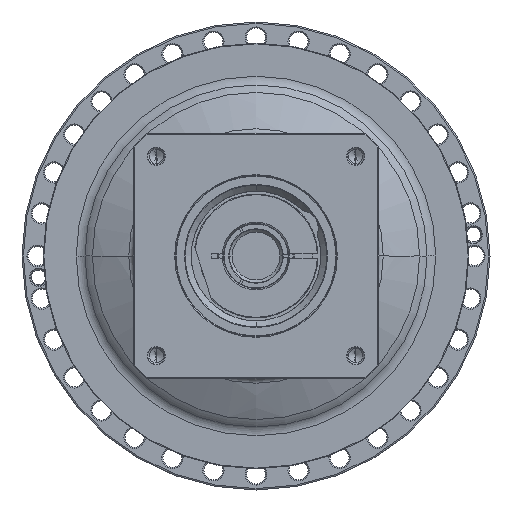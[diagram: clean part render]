
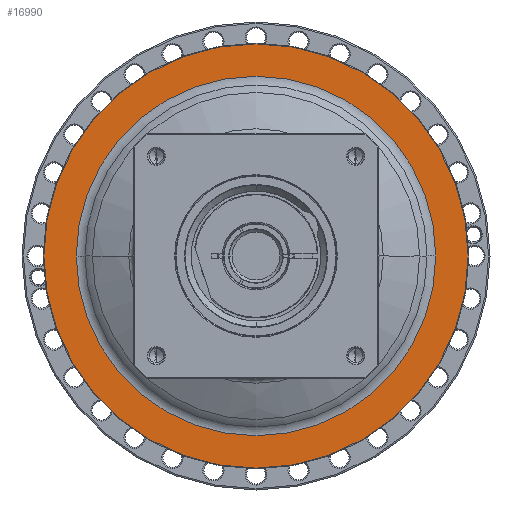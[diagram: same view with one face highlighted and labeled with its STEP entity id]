
A CAD part, left-side view. The second image highlights one B-rep face of the part: STEP entity #16990.
In plain terms, the highlighted planar face has unit normal (-1, 0, 0) as drawn and (1, 0, 0) by its records, which use the part's own axes.
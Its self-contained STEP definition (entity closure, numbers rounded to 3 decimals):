
#16397=CARTESIAN_POINT('',(-25.,0.,0.));
#16398=DIRECTION('',(-1.,0.,0.));
#16399=DIRECTION('',(0.,-1.,0.));
#16400=AXIS2_PLACEMENT_3D('',#16397,#16398,#16399);
#16402=CARTESIAN_POINT('',(-25.,0.,0.));
#16403=DIRECTION('',(-1.,0.,0.));
#16404=DIRECTION('',(0.,1.,0.));
#16405=AXIS2_PLACEMENT_3D('',#16402,#16403,#16404);
#16412=CARTESIAN_POINT('',(-25.,0.,0.));
#16413=DIRECTION('',(1.,0.,0.));
#16414=DIRECTION('',(0.,1.,0.));
#16415=AXIS2_PLACEMENT_3D('',#16412,#16413,#16414);
#16467=CARTESIAN_POINT('',(-25.,0.,0.));
#16468=DIRECTION('',(-1.,0.,0.));
#16469=DIRECTION('',(0.,1.,0.));
#16470=AXIS2_PLACEMENT_3D('',#16467,#16468,#16469);
#16541=CARTESIAN_POINT('',(-25.,-150.5,0.));
#16542=CARTESIAN_POINT('',(-25.,150.5,0.));
#16543=VERTEX_POINT('',#16541);
#16544=VERTEX_POINT('',#16542);
#16569=CARTESIAN_POINT('',(-25.,127.5,0.));
#16570=CARTESIAN_POINT('',(-25.,-127.5,0.));
#16571=VERTEX_POINT('',#16569);
#16572=VERTEX_POINT('',#16570);
#16975=CARTESIAN_POINT('',(-25.,0.,0.));
#16976=DIRECTION('',(1.,0.,0.));
#16977=DIRECTION('',(0.,-1.,0.));
#16978=AXIS2_PLACEMENT_3D('',#16975,#16976,#16977);
#16979=PLANE('',#16978);
#16980=ORIENTED_EDGE('',*,*,#16916,.T.);
#16981=ORIENTED_EDGE('',*,*,#16931,.T.);
#16982=EDGE_LOOP('',(#16980,#16981));
#16983=FACE_OUTER_BOUND('',#16982,.F.);
#16985=ORIENTED_EDGE('',*,*,#16984,.T.);
#16987=ORIENTED_EDGE('',*,*,#16986,.F.);
#16988=EDGE_LOOP('',(#16985,#16987));
#16989=FACE_BOUND('',#16988,.F.);
#16990=ADVANCED_FACE('',(#16983,#16989),#16979,.T.);
#16401=CIRCLE('',#16400,150.5);
#16406=CIRCLE('',#16405,150.5);
#16416=CIRCLE('',#16415,127.5);
#16471=CIRCLE('',#16470,127.5);
#16916=EDGE_CURVE('',#16543,#16544,#16401,.T.);
#16931=EDGE_CURVE('',#16544,#16543,#16406,.T.);
#16984=EDGE_CURVE('',#16571,#16572,#16416,.T.);
#16986=EDGE_CURVE('',#16571,#16572,#16471,.T.);
